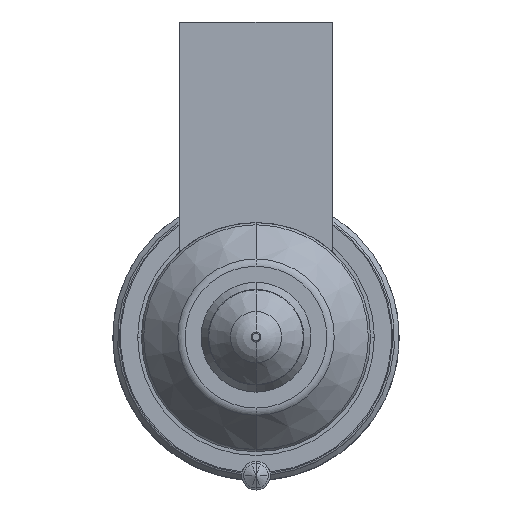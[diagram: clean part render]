
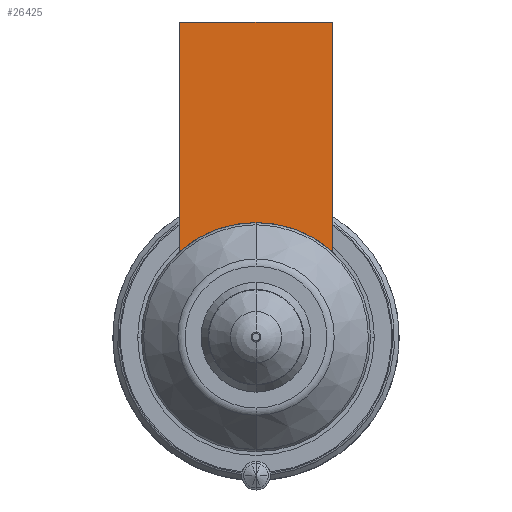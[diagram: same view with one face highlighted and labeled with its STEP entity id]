
A CAD part, front view. The second image highlights one B-rep face of the part: STEP entity #26425.
In plain terms, the highlighted planar face has unit normal (0, -1, 0).
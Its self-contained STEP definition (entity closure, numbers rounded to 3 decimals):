
#25505=DIRECTION('',(0.,0.,-1.));
#25506=VECTOR('',#25505,24.056);
#25507=CARTESIAN_POINT('',(-8.,-56.,33.));
#25508=LINE('',#25507,#25506);
#25545=DIRECTION('',(1.,0.,0.));
#25546=VECTOR('',#25545,16.);
#25547=CARTESIAN_POINT('',(-8.,-56.,33.));
#25548=LINE('',#25547,#25546);
#25552=CARTESIAN_POINT('',(0.,-56.,0.));
#25553=DIRECTION('',(0.,-1.,0.));
#25554=DIRECTION('',(0.667,0.,0.745));
#25555=AXIS2_PLACEMENT_3D('',#25552,#25553,#25554);
#25560=CARTESIAN_POINT('',(0.,-56.,0.));
#25561=DIRECTION('',(0.,-1.,0.));
#25562=DIRECTION('',(0.,0.,1.));
#25563=AXIS2_PLACEMENT_3D('',#25560,#25561,#25562);
#25596=DIRECTION('',(0.,0.,-1.));
#25597=VECTOR('',#25596,24.056);
#25598=CARTESIAN_POINT('',(8.,-56.,33.));
#25599=LINE('',#25598,#25597);
#26261=CARTESIAN_POINT('',(-8.,-56.,33.));
#26262=VERTEX_POINT('',#26261);
#26267=CARTESIAN_POINT('',(8.,-56.,33.));
#26268=VERTEX_POINT('',#26267);
#26271=CARTESIAN_POINT('',(-8.,-56.,8.944));
#26272=VERTEX_POINT('',#26271);
#26275=CARTESIAN_POINT('',(8.,-56.,8.944));
#26276=VERTEX_POINT('',#26275);
#26344=CARTESIAN_POINT('',(0.,-56.,12.));
#26345=VERTEX_POINT('',#26344);
#26410=CARTESIAN_POINT('',(-8.,-56.,33.));
#26411=DIRECTION('',(0.,-1.,0.));
#26412=DIRECTION('',(0.,0.,-1.));
#26413=AXIS2_PLACEMENT_3D('',#26410,#26411,#26412);
#26414=PLANE('',#26413);
#26415=ORIENTED_EDGE('',*,*,#26358,.F.);
#26417=ORIENTED_EDGE('',*,*,#26416,.T.);
#26419=ORIENTED_EDGE('',*,*,#26418,.T.);
#26421=ORIENTED_EDGE('',*,*,#26420,.T.);
#26422=ORIENTED_EDGE('',*,*,#26390,.T.);
#26423=EDGE_LOOP('',(#26415,#26417,#26419,#26421,#26422));
#26424=FACE_OUTER_BOUND('',#26423,.F.);
#26425=ADVANCED_FACE('',(#26424),#26414,.T.);
#25556=CIRCLE('',#25555,12.);
#25564=CIRCLE('',#25563,12.);
#26358=EDGE_CURVE('',#26262,#26272,#25508,.T.);
#26390=EDGE_CURVE('',#26345,#26272,#25564,.T.);
#26416=EDGE_CURVE('',#26262,#26268,#25548,.T.);
#26418=EDGE_CURVE('',#26268,#26276,#25599,.T.);
#26420=EDGE_CURVE('',#26276,#26345,#25556,.T.);
